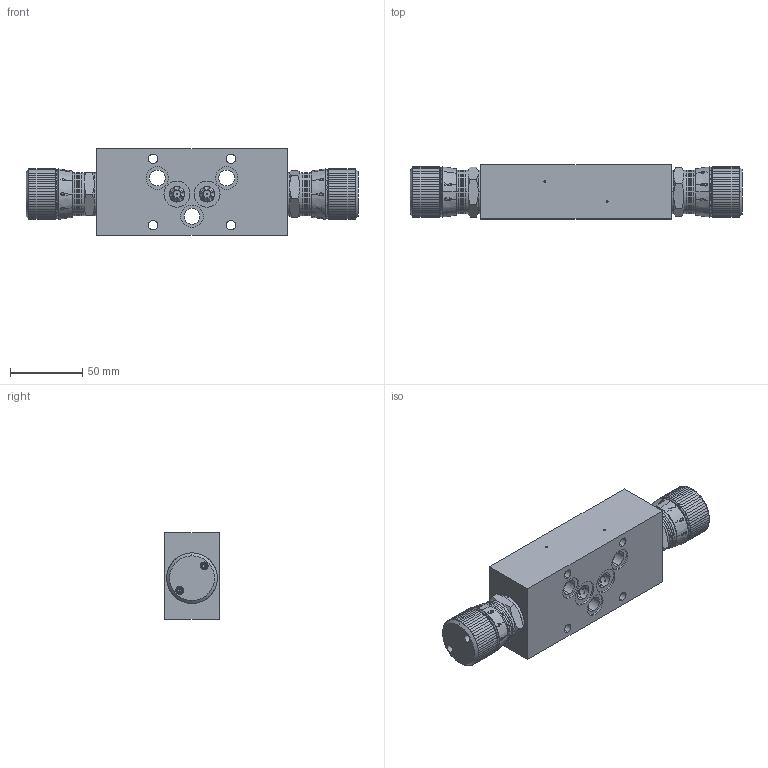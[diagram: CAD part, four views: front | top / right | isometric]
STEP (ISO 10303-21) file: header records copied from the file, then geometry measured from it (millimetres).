
FILE_DESCRIPTION (( 'STEP AP214' ), '1' );
FILE_NAME ('AURDAB10.STEP', '2017-04-12T14:06:00', ( '' ), ( '' ), 'SwSTEP 2.0', 'SolidWorks 2016', '' );
FILE_SCHEMA (( 'AUTOMOTIVE_DESIGN' ));
Length unit declared in the file: millimetre
Products named in the file (1): AURDAB10
Bounding box: 230 x 37.5 x 60 mm (x, y, z)
Volume: 358140 mm3; surface area: 53533.5 mm2
Topology: 1 solids, 5 shells, 1896 faces, 5237 edges, 3418 vertices
Faces by surface type: plane 1153, cylinder 315, bspline 236, cone 160, torus 32
Entity records: 109952 total; most frequent: CARTESIAN_POINT 45300, ORIENTED_EDGE 10442, DIRECTION 7441, EDGE_CURVE 5221, VERTEX_POINT 3418, AXIS2_PLACEMENT_3D 2797, B_SPLINE_CURVE_WITH_KNOTS 2093, EDGE_LOOP 2001
